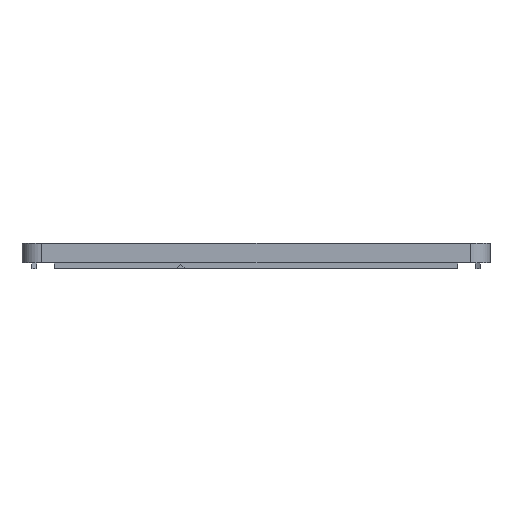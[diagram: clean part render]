
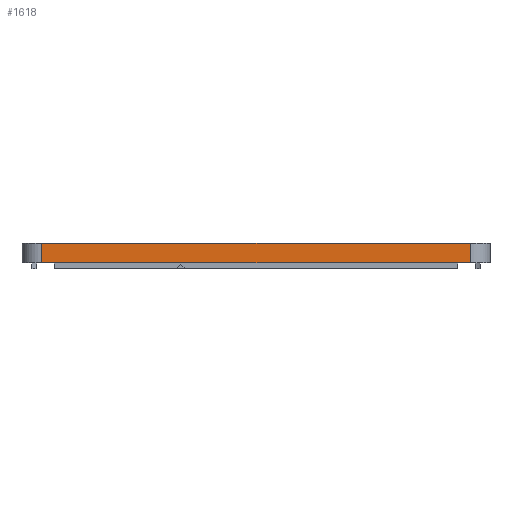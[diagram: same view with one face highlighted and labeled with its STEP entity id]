
A CAD part, left-side view. The second image highlights one B-rep face of the part: STEP entity #1618.
In plain terms, the highlighted planar face has unit normal (-1, 0, 0).
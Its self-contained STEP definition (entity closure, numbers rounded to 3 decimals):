
#44 = PLANE('',#45);
#45 = AXIS2_PLACEMENT_3D('',#46,#47,#48);
#46 = CARTESIAN_POINT('',(97.1,-71.6,47.));
#47 = DIRECTION('',(0.,0.,1.));
#48 = DIRECTION('',(1.,0.,0.));
#100 = PLANE('',#101);
#101 = AXIS2_PLACEMENT_3D('',#102,#103,#104);
#102 = CARTESIAN_POINT('',(97.1,-71.6,41.));
#103 = DIRECTION('',(0.,0.,1.));
#104 = DIRECTION('',(1.,0.,0.));
#199 = VERTEX_POINT('',#200);
#200 = CARTESIAN_POINT('',(-97.1,-65.6,47.));
#215 = CYLINDRICAL_SURFACE('',#216,6.);
#216 = AXIS2_PLACEMENT_3D('',#217,#218,#219);
#217 = CARTESIAN_POINT('',(-91.1,-65.6,41.));
#218 = DIRECTION('',(-0.,-0.,1.));
#219 = DIRECTION('',(-1.,-0.,-0.));
#227 = EDGE_CURVE('',#199,#228,#230,.T.);
#228 = VERTEX_POINT('',#229);
#229 = CARTESIAN_POINT('',(-97.1,65.6,47.));
#230 = SURFACE_CURVE('',#231,(#235,#242),.PCURVE_S1.);
#231 = LINE('',#232,#233);
#232 = CARTESIAN_POINT('',(-97.1,-71.6,47.));
#233 = VECTOR('',#234,1.);
#234 = DIRECTION('',(-0.,1.,0.));
#235 = PCURVE('',#44,#236);
#236 = DEFINITIONAL_REPRESENTATION('',(#237),#241);
#237 = LINE('',#238,#239);
#238 = CARTESIAN_POINT('',(-194.2,0.));
#239 = VECTOR('',#240,1.);
#240 = DIRECTION('',(-0.,1.));
#241 = ( GEOMETRIC_REPRESENTATION_CONTEXT(2) 
PARAMETRIC_REPRESENTATION_CONTEXT() REPRESENTATION_CONTEXT('2D SPACE',''
  ) );
#242 = PCURVE('',#243,#248);
#243 = PLANE('',#244);
#244 = AXIS2_PLACEMENT_3D('',#245,#246,#247);
#245 = CARTESIAN_POINT('',(-97.1,-71.6,41.));
#246 = DIRECTION('',(-1.,-0.,0.));
#247 = DIRECTION('',(0.,0.,-1.));
#248 = DEFINITIONAL_REPRESENTATION('',(#249),#253);
#249 = LINE('',#250,#251);
#250 = CARTESIAN_POINT('',(-6.,-0.));
#251 = VECTOR('',#252,1.);
#252 = DIRECTION('',(-0.,-1.));
#253 = ( GEOMETRIC_REPRESENTATION_CONTEXT(2) 
PARAMETRIC_REPRESENTATION_CONTEXT() REPRESENTATION_CONTEXT('2D SPACE',''
  ) );
#276 = CYLINDRICAL_SURFACE('',#277,6.);
#277 = AXIS2_PLACEMENT_3D('',#278,#279,#280);
#278 = CARTESIAN_POINT('',(-91.1,65.6,41.));
#279 = DIRECTION('',(-0.,-0.,1.));
#280 = DIRECTION('',(-1.,-0.,-0.));
#827 = VERTEX_POINT('',#828);
#828 = CARTESIAN_POINT('',(-97.1,-65.6,41.));
#850 = EDGE_CURVE('',#827,#851,#853,.T.);
#851 = VERTEX_POINT('',#852);
#852 = CARTESIAN_POINT('',(-97.1,65.6,41.));
#853 = SURFACE_CURVE('',#854,(#858,#865),.PCURVE_S1.);
#854 = LINE('',#855,#856);
#855 = CARTESIAN_POINT('',(-97.1,-71.6,41.));
#856 = VECTOR('',#857,1.);
#857 = DIRECTION('',(-0.,1.,0.));
#858 = PCURVE('',#100,#859);
#859 = DEFINITIONAL_REPRESENTATION('',(#860),#864);
#860 = LINE('',#861,#862);
#861 = CARTESIAN_POINT('',(-194.2,0.));
#862 = VECTOR('',#863,1.);
#863 = DIRECTION('',(-0.,1.));
#864 = ( GEOMETRIC_REPRESENTATION_CONTEXT(2) 
PARAMETRIC_REPRESENTATION_CONTEXT() REPRESENTATION_CONTEXT('2D SPACE',''
  ) );
#865 = PCURVE('',#243,#866);
#866 = DEFINITIONAL_REPRESENTATION('',(#867),#871);
#867 = LINE('',#868,#869);
#868 = CARTESIAN_POINT('',(-0.,-0.));
#869 = VECTOR('',#870,1.);
#870 = DIRECTION('',(-0.,-1.));
#871 = ( GEOMETRIC_REPRESENTATION_CONTEXT(2) 
PARAMETRIC_REPRESENTATION_CONTEXT() REPRESENTATION_CONTEXT('2D SPACE',''
  ) );
#1571 = EDGE_CURVE('',#827,#199,#1572,.T.);
#1572 = SURFACE_CURVE('',#1573,(#1577,#1584),.PCURVE_S1.);
#1573 = LINE('',#1574,#1575);
#1574 = CARTESIAN_POINT('',(-97.1,-65.6,41.));
#1575 = VECTOR('',#1576,1.);
#1576 = DIRECTION('',(-0.,-0.,1.));
#1577 = PCURVE('',#215,#1578);
#1578 = DEFINITIONAL_REPRESENTATION('',(#1579),#1583);
#1579 = LINE('',#1580,#1581);
#1580 = CARTESIAN_POINT('',(0.,0.));
#1581 = VECTOR('',#1582,1.);
#1582 = DIRECTION('',(0.,1.));
#1583 = ( GEOMETRIC_REPRESENTATION_CONTEXT(2) 
PARAMETRIC_REPRESENTATION_CONTEXT() REPRESENTATION_CONTEXT('2D SPACE',''
  ) );
#1584 = PCURVE('',#243,#1585);
#1585 = DEFINITIONAL_REPRESENTATION('',(#1586),#1590);
#1586 = LINE('',#1587,#1588);
#1587 = CARTESIAN_POINT('',(-0.,-6.));
#1588 = VECTOR('',#1589,1.);
#1589 = DIRECTION('',(-1.,-0.));
#1590 = ( GEOMETRIC_REPRESENTATION_CONTEXT(2) 
PARAMETRIC_REPRESENTATION_CONTEXT() REPRESENTATION_CONTEXT('2D SPACE',''
  ) );
#1598 = EDGE_CURVE('',#851,#228,#1599,.T.);
#1599 = SURFACE_CURVE('',#1600,(#1604,#1611),.PCURVE_S1.);
#1600 = LINE('',#1601,#1602);
#1601 = CARTESIAN_POINT('',(-97.1,65.6,41.));
#1602 = VECTOR('',#1603,1.);
#1603 = DIRECTION('',(-0.,-0.,1.));
#1604 = PCURVE('',#276,#1605);
#1605 = DEFINITIONAL_REPRESENTATION('',(#1606),#1610);
#1606 = LINE('',#1607,#1608);
#1607 = CARTESIAN_POINT('',(-0.,0.));
#1608 = VECTOR('',#1609,1.);
#1609 = DIRECTION('',(-0.,1.));
#1610 = ( GEOMETRIC_REPRESENTATION_CONTEXT(2) 
PARAMETRIC_REPRESENTATION_CONTEXT() REPRESENTATION_CONTEXT('2D SPACE',''
  ) );
#1611 = PCURVE('',#243,#1612);
#1612 = DEFINITIONAL_REPRESENTATION('',(#1613),#1617);
#1613 = LINE('',#1614,#1615);
#1614 = CARTESIAN_POINT('',(-0.,-137.2));
#1615 = VECTOR('',#1616,1.);
#1616 = DIRECTION('',(-1.,-0.));
#1617 = ( GEOMETRIC_REPRESENTATION_CONTEXT(2) 
PARAMETRIC_REPRESENTATION_CONTEXT() REPRESENTATION_CONTEXT('2D SPACE',''
  ) );
#1618 = ADVANCED_FACE('',(#1619),#243,.T.);
#1619 = FACE_BOUND('',#1620,.F.);
#1620 = EDGE_LOOP('',(#1621,#1622,#1623,#1624));
#1621 = ORIENTED_EDGE('',*,*,#227,.F.);
#1622 = ORIENTED_EDGE('',*,*,#1571,.F.);
#1623 = ORIENTED_EDGE('',*,*,#850,.T.);
#1624 = ORIENTED_EDGE('',*,*,#1598,.T.);
